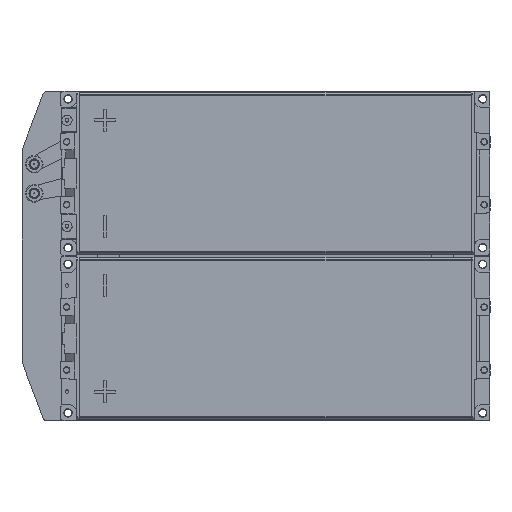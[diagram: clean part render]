
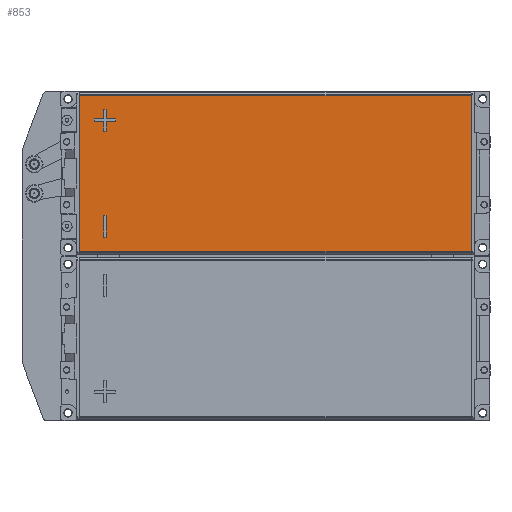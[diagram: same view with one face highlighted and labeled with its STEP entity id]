
A CAD part, top view. The second image highlights one B-rep face of the part: STEP entity #853.
In plain terms, the highlighted planar face has unit normal (0, 0, 1).
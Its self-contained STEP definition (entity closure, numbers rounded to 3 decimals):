
#546=FACE_BOUND('',#3475,.T.);
#547=FACE_BOUND('',#3476,.T.);
#548=FACE_BOUND('',#3477,.T.);
#853=ADVANCED_FACE('',(#546,#547,#548),#1881,.T.);
#1881=PLANE('',#19168);
#3475=EDGE_LOOP('',(#8812,#8813,#8814,#8815));
#3476=EDGE_LOOP('',(#8816,#8817,#8818,#8819,#8820,#8821,#8822,#8823,#8824,
#8825,#8826,#8827));
#3477=EDGE_LOOP('',(#8828,#8829,#8830,#8831));
#4684=LINE('',#26272,#6702);
#4687=LINE('',#26279,#6705);
#4690=LINE('',#26285,#6708);
#4694=LINE('',#26292,#6712);
#4696=LINE('',#26297,#6714);
#4699=LINE('',#26303,#6717);
#4702=LINE('',#26309,#6720);
#4705=LINE('',#26315,#6723);
#4708=LINE('',#26320,#6726);
#4714=LINE('',#26332,#6732);
#4715=LINE('',#26334,#6733);
#4717=LINE('',#26338,#6735);
#4720=LINE('',#26345,#6738);
#4726=LINE('',#26357,#6744);
#4727=LINE('',#26359,#6745);
#4729=LINE('',#26363,#6747);
#4730=LINE('',#26365,#6748);
#4731=LINE('',#26368,#6749);
#4732=LINE('',#26370,#6750);
#4733=LINE('',#26372,#6751);
#6702=VECTOR('',#20881,1.);
#6705=VECTOR('',#20886,1.);
#6708=VECTOR('',#20891,1.);
#6712=VECTOR('',#20897,1.);
#6714=VECTOR('',#20901,1.);
#6717=VECTOR('',#20906,1.);
#6720=VECTOR('',#20911,1.);
#6723=VECTOR('',#20916,1.);
#6726=VECTOR('',#20921,1.);
#6732=VECTOR('',#20931,1.);
#6733=VECTOR('',#20934,1.);
#6735=VECTOR('',#20938,1.);
#6738=VECTOR('',#20943,1.);
#6744=VECTOR('',#20953,1.);
#6745=VECTOR('',#20956,1.);
#6747=VECTOR('',#20960,1.);
#6748=VECTOR('',#20963,1.);
#6749=VECTOR('',#20964,1.);
#6750=VECTOR('',#20965,1.);
#6751=VECTOR('',#20966,1.);
#8812=ORIENTED_EDGE('',*,*,#15946,.T.);
#8813=ORIENTED_EDGE('',*,*,#15952,.F.);
#8814=ORIENTED_EDGE('',*,*,#15955,.F.);
#8815=ORIENTED_EDGE('',*,*,#15953,.F.);
#8816=ORIENTED_EDGE('',*,*,#15934,.T.);
#8817=ORIENTED_EDGE('',*,*,#15910,.T.);
#8818=ORIENTED_EDGE('',*,*,#15913,.F.);
#8819=ORIENTED_EDGE('',*,*,#15916,.F.);
#8820=ORIENTED_EDGE('',*,*,#15920,.T.);
#8821=ORIENTED_EDGE('',*,*,#15922,.F.);
#8822=ORIENTED_EDGE('',*,*,#15925,.F.);
#8823=ORIENTED_EDGE('',*,*,#15928,.F.);
#8824=ORIENTED_EDGE('',*,*,#15931,.F.);
#8825=ORIENTED_EDGE('',*,*,#15940,.T.);
#8826=ORIENTED_EDGE('',*,*,#15943,.F.);
#8827=ORIENTED_EDGE('',*,*,#15941,.F.);
#8828=ORIENTED_EDGE('',*,*,#15956,.T.);
#8829=ORIENTED_EDGE('',*,*,#15957,.T.);
#8830=ORIENTED_EDGE('',*,*,#15958,.T.);
#8831=ORIENTED_EDGE('',*,*,#15959,.T.);
#14126=VERTEX_POINT('',#26271);
#14127=VERTEX_POINT('',#26273);
#14128=VERTEX_POINT('',#26277);
#14130=VERTEX_POINT('',#26283);
#14133=VERTEX_POINT('',#26291);
#14134=VERTEX_POINT('',#26295);
#14136=VERTEX_POINT('',#26301);
#14138=VERTEX_POINT('',#26307);
#14140=VERTEX_POINT('',#26313);
#14143=VERTEX_POINT('',#26321);
#14146=VERTEX_POINT('',#26331);
#14147=VERTEX_POINT('',#26335);
#14150=VERTEX_POINT('',#26344);
#14151=VERTEX_POINT('',#26346);
#14154=VERTEX_POINT('',#26356);
#14155=VERTEX_POINT('',#26360);
#14156=VERTEX_POINT('',#26366);
#14157=VERTEX_POINT('',#26367);
#14158=VERTEX_POINT('',#26369);
#14159=VERTEX_POINT('',#26371);
#15910=EDGE_CURVE('',#14127,#14126,#4684,.T.);
#15913=EDGE_CURVE('',#14128,#14126,#4687,.T.);
#15916=EDGE_CURVE('',#14130,#14128,#4690,.T.);
#15920=EDGE_CURVE('',#14130,#14133,#4694,.T.);
#15922=EDGE_CURVE('',#14134,#14133,#4696,.T.);
#15925=EDGE_CURVE('',#14136,#14134,#4699,.T.);
#15928=EDGE_CURVE('',#14138,#14136,#4702,.T.);
#15931=EDGE_CURVE('',#14140,#14138,#4705,.T.);
#15934=EDGE_CURVE('',#14143,#14127,#4708,.T.);
#15940=EDGE_CURVE('',#14140,#14146,#4714,.T.);
#15941=EDGE_CURVE('',#14143,#14147,#4715,.T.);
#15943=EDGE_CURVE('',#14147,#14146,#4717,.T.);
#15946=EDGE_CURVE('',#14151,#14150,#4720,.T.);
#15952=EDGE_CURVE('',#14154,#14150,#4726,.T.);
#15953=EDGE_CURVE('',#14151,#14155,#4727,.T.);
#15955=EDGE_CURVE('',#14155,#14154,#4729,.T.);
#15956=EDGE_CURVE('',#14156,#14157,#4730,.T.);
#15957=EDGE_CURVE('',#14157,#14158,#4731,.T.);
#15958=EDGE_CURVE('',#14158,#14159,#4732,.T.);
#15959=EDGE_CURVE('',#14159,#14156,#4733,.T.);
#19168=AXIS2_PLACEMENT_3D('',#26373,#20967,#20968);
#20881=DIRECTION('',(1.,0.,0.));
#20886=DIRECTION('',(0.,1.,0.));
#20891=DIRECTION('',(1.,0.,0.));
#20897=DIRECTION('',(0.,-1.,0.));
#20901=DIRECTION('',(1.,0.,0.));
#20906=DIRECTION('',(0.,-1.,0.));
#20911=DIRECTION('',(1.,0.,0.));
#20916=DIRECTION('',(0.,-1.,0.));
#20921=DIRECTION('',(0.,-1.,0.));
#20931=DIRECTION('',(1.,0.,0.));
#20934=DIRECTION('',(-1.,0.,0.));
#20938=DIRECTION('',(0.,-1.,0.));
#20943=DIRECTION('',(0.,-1.,0.));
#20953=DIRECTION('',(1.,0.,0.));
#20956=DIRECTION('',(-1.,0.,0.));
#20960=DIRECTION('',(0.,-1.,0.));
#20963=DIRECTION('',(0.,-1.,0.));
#20964=DIRECTION('',(1.,0.,0.));
#20965=DIRECTION('',(0.,1.,0.));
#20966=DIRECTION('',(-1.,0.,0.));
#20967=DIRECTION('',(0.,0.,1.));
#20968=DIRECTION('',(1.,0.,0.));
#26271=CARTESIAN_POINT('',(-501.,74.5,53.9));
#26272=CARTESIAN_POINT('',(-507.5,74.5,53.9));
#26273=CARTESIAN_POINT('',(-514.,74.5,53.9));
#26277=CARTESIAN_POINT('',(-501.,70.5,53.9));
#26279=CARTESIAN_POINT('',(-501.,72.5,53.9));
#26283=CARTESIAN_POINT('',(-514.,70.5,53.9));
#26285=CARTESIAN_POINT('',(-507.5,70.5,53.9));
#26291=CARTESIAN_POINT('',(-514.,57.5,53.9));
#26292=CARTESIAN_POINT('',(-514.,64.,53.9));
#26295=CARTESIAN_POINT('',(-518.,57.5,53.9));
#26297=CARTESIAN_POINT('',(-516.,57.5,53.9));
#26301=CARTESIAN_POINT('',(-518.,70.5,53.9));
#26303=CARTESIAN_POINT('',(-518.,64.,53.9));
#26307=CARTESIAN_POINT('',(-531.,70.5,53.9));
#26309=CARTESIAN_POINT('',(-524.5,70.5,53.9));
#26313=CARTESIAN_POINT('',(-531.,74.5,53.9));
#26315=CARTESIAN_POINT('',(-531.,72.5,53.9));
#26320=CARTESIAN_POINT('',(-514.,81.,53.9));
#26321=CARTESIAN_POINT('',(-514.,87.5,53.9));
#26331=CARTESIAN_POINT('',(-518.,74.5,53.9));
#26332=CARTESIAN_POINT('',(-524.5,74.5,53.9));
#26334=CARTESIAN_POINT('',(-516.,87.5,53.9));
#26335=CARTESIAN_POINT('',(-518.,87.5,53.9));
#26338=CARTESIAN_POINT('',(-518.,81.,53.9));
#26344=CARTESIAN_POINT('',(-514.,-87.5,53.9));
#26345=CARTESIAN_POINT('',(-514.,-72.5,53.9));
#26346=CARTESIAN_POINT('',(-514.,-57.5,53.9));
#26356=CARTESIAN_POINT('',(-518.,-87.5,53.9));
#26357=CARTESIAN_POINT('',(-516.,-87.5,53.9));
#26359=CARTESIAN_POINT('',(-516.,-57.5,53.9));
#26360=CARTESIAN_POINT('',(-518.,-57.5,53.9));
#26363=CARTESIAN_POINT('',(-518.,-72.5,53.9));
#26365=CARTESIAN_POINT('',(-551.,0.,53.9));
#26366=CARTESIAN_POINT('',(-551.,106.422,53.9));
#26367=CARTESIAN_POINT('',(-551.,-106.422,53.9));
#26368=CARTESIAN_POINT('',(-283.,-106.422,53.9));
#26369=CARTESIAN_POINT('',(-15.,-106.422,53.9));
#26370=CARTESIAN_POINT('',(-15.,0.,53.9));
#26371=CARTESIAN_POINT('',(-15.,106.422,53.9));
#26372=CARTESIAN_POINT('',(-283.,106.422,53.9));
#26373=CARTESIAN_POINT('',(0.,0.,53.9));
